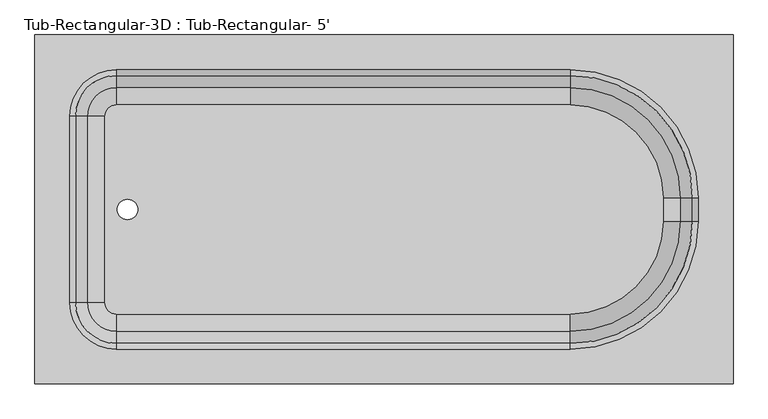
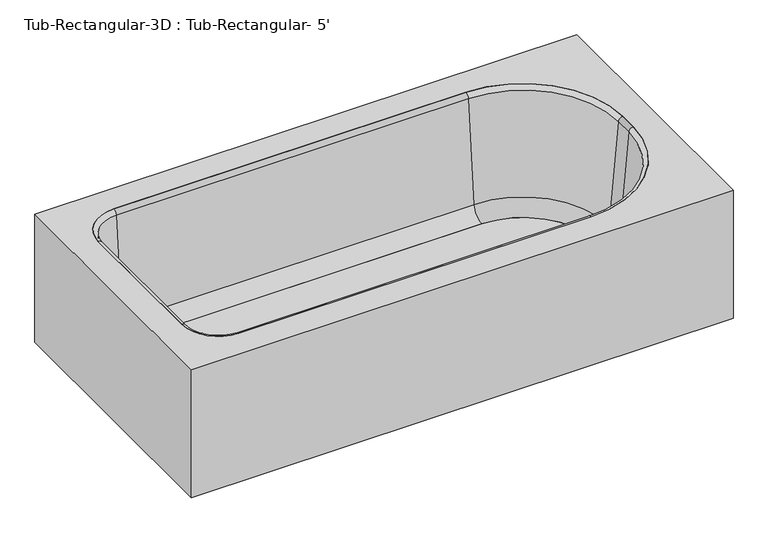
"""IFC4 building model written with IfcOpenShell, lengths in millimetres: flow terminal geometry, Tub-Rectangular-3D : Tub-Rectangular- 5'."""

from ifc_helpers import new_model, si_unit, point, frame, frame_2d, origin, place, context, project, spatial, polyline, circle_curve, ellipse_curve, trimmed, segment, composite_curve, outline, extrude, source, transform, mapped, element, save
from ifc_brep_helpers import plane_surface, cylinder_surface, revolved_surface, advanced_brep


def tub_rectangular_3d_tub_rectangular_5_8ae3ddee(model_context):
    return source(origin(), model_context, "Body", "SolidModel", [
        advanced_brep(
        [(413.3970313, -762.0, 381.0), (413.3970313, 0.0, 381.0), (-1110.6029687, 0.0, 381.0), (-1110.6029687, -762.0, 381.0), (-932.8029687, -685.8, 381.0), (-1034.4029687, -584.2, 381.0), (-1034.4029687, -177.8, 381.0), (-932.8029687, -76.2, 381.0), (57.7970313, -76.2, 381.0), (337.1970313, -355.6, 381.0), (337.1970313, -406.4, 381.0), (57.7970313, -685.8, 381.0), (394.3470313, -742.95, 361.95), (-1091.5529687, -742.95, 361.95), (-1091.5529687, -19.05, 361.95), (394.3470313, -19.05, 361.95), (-932.8029687, -685.8, 361.95), (57.7970313, -685.8, 361.95), (337.1970313, -406.4, 361.95), (337.1970313, -355.6, 361.95), (57.7970313, -76.2, 361.95), (-932.8029687, -76.2, 361.95), (-1034.4029687, -177.8, 361.95), (-1034.4029687, -584.2, 361.95), (-1110.6029687, -762.0, 0.0), (413.3970313, -762.0, 0.0), (-1110.6029687, 0.0, 0.0), (413.3970313, 0.0, 0.0), (394.3470313, -742.95, 0.0), (394.3470313, -19.05, 0.0), (-1091.5529687, -19.05, 0.0), (-1091.5529687, -742.95, 0.0)],
        [
            (0, 1),
            (1, 2),
            (2, 3),
            (3, 0),
            (4, 5, circle_curve(frame((-932.8029687, -584.2, 381.0), z_axis=(0.0, 0.0, -1.0), x_axis=(0.0, -1.0, 0.0)), 101.6)),
            (5, 6),
            (6, 7, circle_curve(frame((-932.8029687, -177.8, 381.0), z_axis=(0.0, 0.0, -1.0), x_axis=(0.0, -1.0, 0.0)), 101.6)),
            (7, 8),
            (8, 9, circle_curve(frame((57.7970313, -355.6, 381.0), z_axis=(0.0, 0.0, -1.0), x_axis=(0.0, -1.0, 0.0)), 279.4)),
            (9, 10),
            (10, 11, circle_curve(frame((57.7970313, -406.4, 381.0), z_axis=(0.0, 0.0, -1.0), x_axis=(0.0, -1.0, 0.0)), 279.4)),
            (11, 4),
            (12, 13),
            (13, 14),
            (14, 15),
            (15, 12),
            (16, 17),
            (17, 18, circle_curve(frame((57.7970313, -406.4, 361.95), z_axis=(0.0, 0.0, 1.0), x_axis=(0.0, -1.0, 0.0)), 279.4)),
            (18, 19),
            (19, 20, circle_curve(frame((57.7970313, -355.6, 361.95), z_axis=(0.0, 0.0, 1.0), x_axis=(0.0, -1.0, 0.0)), 279.4)),
            (20, 21),
            (21, 22, circle_curve(frame((-932.8029687, -177.8, 361.95), z_axis=(0.0, 0.0, 1.0), x_axis=(0.0, -1.0, 0.0)), 101.6)),
            (22, 23),
            (23, 16, circle_curve(frame((-932.8029687, -584.2, 361.95), z_axis=(0.0, 0.0, 1.0), x_axis=(0.0, -1.0, 0.0)), 101.6)),
            (3, 24),
            (24, 25),
            (25, 0),
            (2, 26),
            (26, 24),
            (1, 27),
            (27, 26),
            (25, 27),
            (11, 17),
            (16, 4),
            (10, 18),
            (9, 19),
            (8, 20),
            (7, 21),
            (6, 22),
            (5, 23),
            (28, 29),
            (29, 30),
            (30, 31),
            (31, 28),
            (28, 12),
            (15, 29),
            (14, 30),
            (13, 31),
        ],
        [
            plane_surface(frame((-1110.6029687, -762.0, 381.0), z_axis=(0.0, 0.0, 1.0), x_axis=(-1.0, 0.0, 0.0))),
            plane_surface(frame((-1110.6029687, -762.0, 361.95), z_axis=(0.0, 0.0, -1.0), x_axis=(1.0, 0.0, 0.0))),
            plane_surface(frame((413.3970313, -762.0, 381.0), z_axis=(0.0, -1.0, 0.0), x_axis=(0.0, 0.0, -1.0))),
            plane_surface(frame((-1110.6029687, -762.0, 381.0), z_axis=(-1.0, 0.0, 0.0), x_axis=(0.0, 0.0, -1.0))),
            plane_surface(frame((-1110.6029687, 0.0, 381.0), z_axis=(0.0, 1.0, 0.0), x_axis=(0.0, 0.0, -1.0))),
            plane_surface(frame((413.3970313, 0.0, 381.0), z_axis=(1.0, 0.0, 0.0), x_axis=(0.0, 0.0, -1.0))),
            plane_surface(frame((-932.8029687, -685.8, 381.0), z_axis=(0.0, 1.0, 0.0), x_axis=(0.0, 0.0, -1.0))),
            revolved_surface(polyline([(57.7970313, -685.8, 361.95), (57.7970313, -685.8, 381.0)]), (57.7970313, -406.4, 381.0), (0.0, 0.0, -1.0)),
            plane_surface(frame((337.1970313, -406.4, 381.0), z_axis=(-1.0, 0.0, 0.0), x_axis=(0.0, 0.0, -1.0))),
            revolved_surface(polyline([(57.7970313, -635.0, 361.95), (57.7970313, -635.0, 381.0)]), (57.7970313, -355.6, 381.0), (0.0, 0.0, -1.0)),
            plane_surface(frame((57.7970313, -76.2, 381.0), z_axis=(0.0, -1.0, 0.0), x_axis=(0.0, 0.0, -1.0))),
            revolved_surface(polyline([(-932.8029687, -279.4, 361.95), (-932.8029687, -279.4, 381.0)]), (-932.8029687, -177.8, 381.0), (0.0, 0.0, -1.0)),
            plane_surface(frame((-1034.4029687, -177.8, 381.0), z_axis=(1.0, 0.0, 0.0), x_axis=(0.0, 0.0, -1.0))),
            revolved_surface(polyline([(-932.8029687, -685.8000000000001, 361.95), (-932.8029687, -685.8000000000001, 381.0)]), (-932.8029687, -584.2, 381.0), (0.0, 0.0, -1.0)),
            plane_surface(frame((-1110.6029687, -762.0, 0.0), z_axis=(0.0, 0.0, -1.0), x_axis=(1.0, 0.0, 0.0))),
            plane_surface(frame((394.3470313, -742.95, 361.95), z_axis=(-1.0, 0.0, 0.0), x_axis=(0.0, 0.0, -1.0))),
            plane_surface(frame((394.3470313, -19.05, 361.95), z_axis=(0.0, -1.0, 0.0), x_axis=(0.0, 0.0, -1.0))),
            plane_surface(frame((-1091.5529687, -19.05, 361.95), z_axis=(1.0, 0.0, 0.0), x_axis=(0.0, 0.0, -1.0))),
            plane_surface(frame((-1091.5529687, -742.95, 361.95), z_axis=(0.0, 1.0, 0.0), x_axis=(0.0, 0.0, -1.0))),
        ],
        [
            (0, [[1, 2, 3, 4], [5, 6, 7, 8, 9, 10, 11, 12]]),
            (1, [[13, 14, 15, 16], [17, 18, 19, 20, 21, 22, 23, 24]]),
            (2, [[25, 26, 27, -4]]),
            (3, [[28, 29, -25, -3]]),
            (4, [[30, 31, -28, -2]]),
            (5, [[32, -30, -1, -27]]),
            (6, [[33, -17, 34, -12]]),
            (7, [[35, -18, -33, -11]]),
            (8, [[36, -19, -35, -10]]),
            (9, [[37, -20, -36, -9]]),
            (10, [[38, -21, -37, -8]]),
            (11, [[39, -22, -38, -7]]),
            (12, [[40, -23, -39, -6]]),
            (13, [[-34, -24, -40, -5]]),
            (14, [[-26, -29, -31, -32], [41, 42, 43, 44]]),
            (15, [[45, -16, 46, -41]]),
            (16, [[-46, -15, 47, -42]]),
            (17, [[-47, -14, 48, -43]]),
            (18, [[-48, -13, -45, -44]]),
        ],
    ),
        extrude(outline(composite_curve([segment(polyline([(57.7970313, -609.1964741), (-932.8029687, -609.1964741)]), True, "CONTINUOUS"), segment(trimmed(circle_curve(frame_2d((-932.8029687, -584.2)), 24.9964741), [point((-932.8029687, -609.1964741))], [point((-957.7994428, -584.2))], False, "CARTESIAN"), True, "CONTINUOUS"), segment(polyline([(-957.7994428, -584.2), (-957.7994428, -177.8)]), True, "CONTINUOUS"), segment(trimmed(circle_curve(frame_2d((-932.8029687, -177.8)), 24.9964741), [point((-957.7994428, -177.8))], [point((-932.8029687, -152.8035259))], False, "CARTESIAN"), True, "CONTINUOUS"), segment(polyline([(-932.8029687, -152.8035259), (57.7970313, -152.8035259)]), True, "CONTINUOUS"), segment(trimmed(circle_curve(frame_2d((57.7970313, -355.6)), 202.7964741), [point((57.7970313, -152.8035259))], [point((260.5935054, -355.6))], False, "CARTESIAN"), True, "CONTINUOUS"), segment(polyline([(260.5935054, -355.6), (260.5935054, -406.4)]), True, "CONTINUOUS"), segment(trimmed(circle_curve(frame_2d((57.7970313, -406.4)), 202.7964741), [point((260.5935054, -406.4))], [point((57.7970313, -609.1964741))], False, "CARTESIAN"), True, "CONTINUOUS")], self_intersect=False), holes=[composite_curve([segment(trimmed(circle_curve(frame_2d((-908.510206, -381.0)), 22.225), [point((-908.510206, -403.225))], [point((-908.510206, -358.775))], True, "CARTESIAN"), True, "CONTINUOUS"), segment(trimmed(circle_curve(frame_2d((-908.510206, -381.0)), 22.225), [point((-908.510206, -358.775))], [point((-908.510206, -403.225))], True, "CARTESIAN"), True, "CONTINUOUS")], self_intersect=False)]), frame((0.0, 0.0, 16.863573), z_axis=(0.0, 0.0, 1.0), x_axis=(1.0, 0.0, 0.0)), (0.0, 0.0, 1.0), 19.05),
        advanced_brep(
        [(-995.7544608, -584.2, 70.6929392), (-1021.9249722, -584.2, 369.8232535), (-932.8029687, -673.3220035, 369.8232535), (-932.8029687, -647.1514921, 70.6929392), (-957.7994428, -584.2, 35.913573), (-932.8029687, -609.1964741, 35.913573), (-957.7994428, -584.2, 16.863573), (-932.8029687, -609.1964741, 16.863573), (-1034.4029687, -584.2, 16.863573), (-932.8029687, -685.8, 16.863573), (-1034.4029687, -584.2, 381.0), (-932.8029687, -685.8, 381.0), (-995.7544608, -177.8, 70.6929392), (-1021.9249722, -177.8, 369.8232535), (-957.7994428, -177.8, 35.913573), (-957.7994428, -177.8, 16.863573), (-1034.4029687, -177.8, 16.863573), (-1034.4029687, -177.8, 381.0), (-932.8029687, -114.8485079, 70.6929392), (-932.8029687, -88.6779965, 369.8232535), (-932.8029687, -152.8035259, 35.913573), (-932.8029687, -152.8035259, 16.863573), (-932.8029687, -76.2, 16.863573), (-932.8029687, -76.2, 381.0), (57.7970313, -114.8485079, 70.6929392), (57.7970313, -88.6779965, 369.8232535), (57.7970313, -152.8035259, 35.913573), (57.7970313, -152.8035259, 16.863573), (57.7970313, -76.2, 16.863573), (57.7970313, -76.2, 381.0), (298.5485234, -355.6, 70.6929392), (324.7190348, -355.6, 369.8232535), (260.5935054, -355.6, 35.913573), (260.5935054, -355.6, 16.863573), (337.1970313, -355.6, 16.863573), (337.1970313, -355.6, 381.0), (298.5485234, -406.4, 70.6929392), (324.7190348, -406.4, 369.8232535), (260.5935054, -406.4, 35.913573), (260.5935054, -406.4, 16.863573), (337.1970313, -406.4, 16.863573), (337.1970313, -406.4, 381.0), (57.7970313, -647.1514921, 70.6929392), (57.7970313, -673.3220035, 369.8232535), (57.7970313, -609.1964741, 35.913573), (57.7970313, -609.1964741, 16.863573), (57.7970313, -685.8, 16.863573), (57.7970313, -685.8, 381.0)],
        [
            (0, 1),
            (1, 2, circle_curve(frame((-932.8029687, -584.2, 369.8232535), z_axis=(0.0, 0.0, 1.0), x_axis=(0.0, -1.0, 0.0)), 89.1220035)),
            (2, 3),
            (3, 0, circle_curve(frame((-932.8029687, -584.2, 70.6929392), z_axis=(0.0, 0.0, -1.0), x_axis=(0.0, -1.0, 0.0)), 62.9514921)),
            (4, 0, circle_curve(frame((-957.7994428, -584.2, 74.013573), z_axis=(0.0, 1.0, 0.0), x_axis=(1.0, 0.0, 0.0)), 38.1)),
            (3, 5, circle_curve(frame((-932.8029687, -609.1964741, 74.013573), z_axis=(1.0, 0.0, 0.0), x_axis=(0.0, 1.0, 0.0)), 38.1)),
            (5, 4, circle_curve(frame((-932.8029687, -584.2, 35.913573), z_axis=(0.0, 0.0, -1.0), x_axis=(0.0, -1.0, 0.0)), 24.9964741)),
            (6, 4),
            (5, 7),
            (7, 6, circle_curve(frame((-932.8029687, -584.2, 16.863573), z_axis=(0.0, 0.0, -1.0), x_axis=(0.0, -1.0, 0.0)), 24.9964741)),
            (8, 6),
            (7, 9),
            (9, 8, circle_curve(frame((-932.8029687, -584.2, 16.863573), z_axis=(0.0, 0.0, -1.0), x_axis=(0.0, -1.0, 0.0)), 101.6)),
            (10, 8),
            (9, 11),
            (11, 10, circle_curve(frame((-932.8029687, -584.2, 381.0), z_axis=(0.0, 0.0, -1.0), x_axis=(0.0, -1.0, 0.0)), 101.6)),
            (1, 10, circle_curve(frame((-1034.4029687, -584.2, 368.4462547), z_axis=(0.0, -1.0, 0.0), x_axis=(1.0, 0.0, 0.0)), 12.5537453)),
            (11, 2, circle_curve(frame((-932.8029687, -685.8, 368.4462547), z_axis=(-1.0, 0.0, 0.0), x_axis=(0.0, 1.0, 0.0)), 12.5537453)),
            (0, 12),
            (12, 13),
            (13, 1),
            (4, 14),
            (14, 12, circle_curve(frame((-957.7994428, -177.8, 74.013573), z_axis=(0.0, 1.0, 0.0), x_axis=(1.0, 0.0, 0.0)), 38.1)),
            (6, 15),
            (15, 14),
            (8, 16),
            (16, 15),
            (10, 17),
            (17, 16),
            (13, 17, circle_curve(frame((-1034.4029687, -177.8, 368.4462547), z_axis=(0.0, -1.0, 0.0), x_axis=(1.0, 0.0, 0.0)), 12.5537453)),
            (18, 19),
            (19, 13, circle_curve(frame((-932.8029687, -177.8, 369.8232535), z_axis=(0.0, 0.0, 1.0), x_axis=(-1.0, 0.0, 0.0)), 89.1220035)),
            (12, 18, circle_curve(frame((-932.8029687, -177.8, 70.6929392), z_axis=(0.0, 0.0, -1.0), x_axis=(-1.0, 0.0, 0.0)), 62.9514921)),
            (20, 18, circle_curve(frame((-932.8029687, -152.8035259, 74.013573), z_axis=(1.0, 0.0, 0.0), x_axis=(0.0, -1.0, 0.0)), 38.1)),
            (14, 20, circle_curve(frame((-932.8029687, -177.8, 35.913573), z_axis=(0.0, 0.0, -1.0), x_axis=(-1.0, 0.0, 0.0)), 24.9964741)),
            (21, 20),
            (15, 21, circle_curve(frame((-932.8029687, -177.8, 16.863573), z_axis=(0.0, 0.0, -1.0), x_axis=(-1.0, 0.0, 0.0)), 24.9964741)),
            (22, 21),
            (16, 22, circle_curve(frame((-932.8029687, -177.8, 16.863573), z_axis=(0.0, 0.0, -1.0), x_axis=(-1.0, 0.0, 0.0)), 101.6)),
            (23, 22),
            (17, 23, circle_curve(frame((-932.8029687, -177.8, 381.0), z_axis=(0.0, 0.0, -1.0), x_axis=(-1.0, 0.0, 0.0)), 101.6)),
            (19, 23, circle_curve(frame((-932.8029687, -76.2, 368.4462547), z_axis=(-1.0, 0.0, 0.0), x_axis=(0.0, -1.0, 0.0)), 12.5537453)),
            (18, 24),
            (24, 25),
            (25, 19),
            (20, 26),
            (26, 24, circle_curve(frame((57.7970313, -152.8035259, 74.013573), z_axis=(1.0, 0.0, 0.0), x_axis=(0.0, -1.0, 0.0)), 38.1)),
            (21, 27),
            (27, 26),
            (22, 28),
            (28, 27),
            (23, 29),
            (29, 28),
            (25, 29, circle_curve(frame((57.7970313, -76.2, 368.4462547), z_axis=(-1.0, 0.0, 0.0), x_axis=(0.0, -1.0, 0.0)), 12.5537453)),
            (30, 31),
            (31, 25, circle_curve(frame((57.7970313, -355.6, 369.8232535), z_axis=(0.0, 0.0, 1.0), x_axis=(0.0, 1.0, 0.0)), 266.9220035)),
            (24, 30, circle_curve(frame((57.7970313, -355.6, 70.6929392), z_axis=(0.0, 0.0, -1.0), x_axis=(0.0, 1.0, 0.0)), 240.7514921)),
            (32, 30, circle_curve(frame((260.5935054, -355.6, 74.013573), z_axis=(0.0, -1.0, 0.0), x_axis=(-1.0, 0.0, 0.0)), 38.1)),
            (26, 32, circle_curve(frame((57.7970313, -355.6, 35.913573), z_axis=(0.0, 0.0, -1.0), x_axis=(0.0, 1.0, 0.0)), 202.7964741)),
            (33, 32),
            (27, 33, circle_curve(frame((57.7970313, -355.6, 16.863573), z_axis=(0.0, 0.0, -1.0), x_axis=(0.0, 1.0, 0.0)), 202.7964741)),
            (34, 33),
            (28, 34, circle_curve(frame((57.7970313, -355.6, 16.863573), z_axis=(0.0, 0.0, -1.0), x_axis=(0.0, 1.0, 0.0)), 279.4)),
            (35, 34),
            (29, 35, circle_curve(frame((57.7970313, -355.6, 381.0), z_axis=(0.0, 0.0, -1.0), x_axis=(0.0, 1.0, 0.0)), 279.4)),
            (31, 35, circle_curve(frame((337.1970313, -355.6, 368.4462547), z_axis=(0.0, 1.0, 0.0), x_axis=(-1.0, 0.0, 0.0)), 12.5537453)),
            (30, 36),
            (36, 37),
            (37, 31),
            (32, 38),
            (38, 36, circle_curve(frame((260.5935054, -406.4, 74.013573), z_axis=(0.0, -1.0, 0.0), x_axis=(-1.0, 0.0, 0.0)), 38.1)),
            (33, 39),
            (39, 38),
            (34, 40),
            (40, 39),
            (35, 41),
            (41, 40),
            (37, 41, circle_curve(frame((337.1970313, -406.4, 368.4462547), z_axis=(0.0, 1.0, 0.0), x_axis=(-1.0, 0.0, 0.0)), 12.5537453)),
            (42, 43),
            (43, 37, circle_curve(frame((57.7970313, -406.4, 369.8232535), z_axis=(0.0, 0.0, 1.0), x_axis=(1.0, 0.0, 0.0)), 266.9220035)),
            (36, 42, circle_curve(frame((57.7970313, -406.4, 70.6929392), z_axis=(0.0, 0.0, -1.0), x_axis=(1.0, 0.0, 0.0)), 240.7514921)),
            (44, 42, circle_curve(frame((57.7970313, -609.1964741, 74.013573), z_axis=(-1.0, 0.0, 0.0), x_axis=(0.0, 1.0, 0.0)), 38.1)),
            (38, 44, circle_curve(frame((57.7970313, -406.4, 35.913573), z_axis=(0.0, 0.0, -1.0), x_axis=(1.0, 0.0, 0.0)), 202.7964741)),
            (45, 44),
            (39, 45, circle_curve(frame((57.7970313, -406.4, 16.863573), z_axis=(0.0, 0.0, -1.0), x_axis=(1.0, 0.0, 0.0)), 202.7964741)),
            (46, 45),
            (40, 46, circle_curve(frame((57.7970313, -406.4, 16.863573), z_axis=(0.0, 0.0, -1.0), x_axis=(1.0, 0.0, 0.0)), 279.4)),
            (47, 46),
            (41, 47, circle_curve(frame((57.7970313, -406.4, 381.0), z_axis=(0.0, 0.0, -1.0), x_axis=(1.0, 0.0, 0.0)), 279.4)),
            (43, 47, circle_curve(frame((57.7970313, -685.8, 368.4462547), z_axis=(1.0, 0.0, 0.0), x_axis=(0.0, 1.0, 0.0)), 12.5537453)),
            (42, 3),
            (2, 43),
            (44, 5),
            (45, 7),
            (46, 9),
            (47, 11),
        ],
        [
            revolved_surface(polyline([(-932.8029687, -673.3220035, 369.8232535), (-932.8029687, -647.1514921, 70.6929392)]), (-932.8029687, -584.2, 381.0), (0.0, 0.0, 1.0)),
            revolved_surface(trimmed(ellipse_curve(frame((-932.8029687, -609.1964741, 74.013573), z_axis=(1.0, 0.0, 0.0), x_axis=(0.0, 1.0, 0.0)), 38.1, 38.1), [point((-932.8029687, -647.1514921, 70.6929392))], [point((-932.8029687, -609.1964741, 35.913573))], True, "CARTESIAN"), (-932.8029687, -584.2, 381.0), (0.0, 0.0, 1.0)),
            revolved_surface(polyline([(-932.8029687, -609.1964741, 35.913572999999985), (-932.8029687, -609.1964741, 16.863572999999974)]), (-932.8029687, -584.2, 381.0), (0.0, 0.0, 1.0)),
            plane_surface(frame((-932.8029687, -584.2, 16.863573), z_axis=(0.0, 0.0, -1.0), x_axis=(0.0, -1.0, 0.0))),
            cylinder_surface(frame((-932.8029687, -584.2, 381.0), z_axis=(0.0, 0.0, 1.0), x_axis=(0.0, -1.0, 0.0)), 101.6),
            revolved_surface(trimmed(ellipse_curve(frame((-932.8029687, -685.8, 368.4462547), z_axis=(-1.0, 0.0, 0.0), x_axis=(0.0, 1.0, 0.0)), 12.5537453, 12.5537453), [point((-932.8029687, -685.8, 381.0))], [point((-932.8029687, -673.3220035, 369.8232535))], True, "CARTESIAN"), (-932.8029687, -584.2, 381.0), (0.0, 0.0, 1.0)),
            plane_surface(frame((-1021.9249722, -584.2, 369.8232535), z_axis=(0.9961946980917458, 0.0, 0.08715574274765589), x_axis=(0.0, 1.0, 0.0))),
            revolved_surface(polyline([(-919.6994427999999, -177.8, 74.013573), (-919.6994427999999, -584.2, 74.013573)]), (-957.7994428, -584.2, 74.013573), (0.0, 1.0, 0.0)),
            plane_surface(frame((-957.7994428, -584.2, 35.913573), z_axis=(1.0, 0.0, 0.0), x_axis=(0.0, 1.0, 0.0))),
            plane_surface(frame((-957.7994428, -584.2, 16.863573), z_axis=(0.0, 0.0, -1.0), x_axis=(0.0, 1.0, 0.0))),
            plane_surface(frame((-1034.4029687, -584.2, 16.863573), z_axis=(-1.0, 0.0, 0.0), x_axis=(0.0, 1.0, 0.0))),
            cylinder_surface(frame((-1034.4029687, -584.2, 368.4462547), z_axis=(0.0, -1.0, 0.0), x_axis=(1.0, 0.0, 0.0)), 12.5537453),
            revolved_surface(polyline([(-1021.9249722, -177.8, 369.8232535), (-995.7544608, -177.8, 70.6929392)]), (-932.8029687, -177.8, 381.0), (0.0, 0.0, 1.0)),
            revolved_surface(trimmed(ellipse_curve(frame((-957.7994428, -177.8, 74.013573), z_axis=(0.0, -1.0, 0.0), x_axis=(1.0, 0.0, 0.0)), 38.1, 38.1), [point((-995.7544608, -177.8, 70.6929392))], [point((-957.7994428, -177.8, 35.913573))], True, "CARTESIAN"), (-932.8029687, -177.8, 381.0), (0.0, 0.0, 1.0)),
            revolved_surface(polyline([(-957.7994428, -177.8, 35.913572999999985), (-957.7994428, -177.8, 16.863572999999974)]), (-932.8029687, -177.8, 381.0), (0.0, 0.0, 1.0)),
            plane_surface(frame((-932.8029687, -177.8, 16.863573), z_axis=(0.0, 0.0, -1.0), x_axis=(-1.0, 0.0, 0.0))),
            cylinder_surface(frame((-932.8029687, -177.8, 381.0), z_axis=(0.0, 0.0, 1.0), x_axis=(-1.0, 0.0, 0.0)), 101.6),
            revolved_surface(trimmed(ellipse_curve(frame((-1034.4029687, -177.8, 368.4462547), z_axis=(0.0, 1.0, 0.0), x_axis=(1.0, 0.0, 0.0)), 12.5537453, 12.5537453), [point((-1034.4029687, -177.8, 381.0))], [point((-1021.9249722, -177.8, 369.8232535))], True, "CARTESIAN"), (-932.8029687, -177.8, 381.0), (0.0, 0.0, 1.0)),
            plane_surface(frame((-932.8029687, -88.6779965, 369.8232535), z_axis=(0.0, -0.9961946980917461, 0.08715574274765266), x_axis=(1.0, 0.0, 0.0))),
            revolved_surface(polyline([(57.79703129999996, -190.9035259, 74.013573), (-932.8029687, -190.9035259, 74.013573)]), (-932.8029687, -152.8035259, 74.013573), (1.0, 0.0, 0.0)),
            plane_surface(frame((-932.8029687, -152.8035259, 35.913573), z_axis=(0.0, -1.0, 0.0), x_axis=(1.0, 0.0, 0.0))),
            plane_surface(frame((-932.8029687, -152.8035259, 16.863573), z_axis=(0.0, 0.0, -1.0), x_axis=(1.0, 0.0, 0.0))),
            plane_surface(frame((-932.8029687, -76.2, 16.863573), z_axis=(0.0, 1.0, 0.0), x_axis=(1.0, 0.0, 0.0))),
            cylinder_surface(frame((-932.8029687, -76.2, 368.4462547), z_axis=(-1.0, 0.0, 0.0), x_axis=(0.0, -1.0, 0.0)), 12.5537453),
            revolved_surface(polyline([(57.7970313, -88.6779965, 369.8232535), (57.7970313, -114.8485079, 70.6929392)]), (57.7970313, -355.6, 381.0), (0.0, 0.0, 1.0)),
            revolved_surface(trimmed(ellipse_curve(frame((57.7970313, -152.8035259, 74.013573), z_axis=(-1.0, 0.0, 0.0), x_axis=(0.0, -1.0, 0.0)), 38.1, 38.1), [point((57.7970313, -114.8485079, 70.6929392))], [point((57.7970313, -152.8035259, 35.913573))], True, "CARTESIAN"), (57.7970313, -355.6, 381.0), (0.0, 0.0, 1.0)),
            revolved_surface(polyline([(57.7970313, -152.8035259, 35.913572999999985), (57.7970313, -152.8035259, 16.863572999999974)]), (57.7970313, -355.6, 381.0), (0.0, 0.0, 1.0)),
            plane_surface(frame((57.7970313, -355.6, 16.863573), z_axis=(0.0, 0.0, -1.0), x_axis=(0.0, 1.0, 0.0))),
            cylinder_surface(frame((57.7970313, -355.6, 381.0), z_axis=(0.0, 0.0, 1.0), x_axis=(0.0, 1.0, 0.0)), 279.4),
            revolved_surface(trimmed(ellipse_curve(frame((57.7970313, -76.2, 368.4462547), z_axis=(1.0, 0.0, 0.0), x_axis=(0.0, -1.0, 0.0)), 12.5537453, 12.5537453), [point((57.7970313, -76.2, 381.0))], [point((57.7970313, -88.6779965, 369.8232535))], True, "CARTESIAN"), (57.7970313, -355.6, 381.0), (0.0, 0.0, 1.0)),
            plane_surface(frame((324.7190348, -355.6, 369.8232535), z_axis=(-0.9961946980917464, 0.0, 0.08715574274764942), x_axis=(0.0, -1.0, 0.0))),
            revolved_surface(polyline([(222.49350540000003, -406.4, 74.013573), (222.49350540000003, -355.6, 74.013573)]), (260.5935054, -355.6, 74.013573), (0.0, -1.0, 0.0)),
            plane_surface(frame((260.5935054, -355.6, 35.913573), z_axis=(-1.0, 0.0, 0.0), x_axis=(0.0, -1.0, 0.0))),
            plane_surface(frame((260.5935054, -355.6, 16.863573), z_axis=(0.0, 0.0, -1.0), x_axis=(0.0, -1.0, 0.0))),
            plane_surface(frame((337.1970313, -355.6, 16.863573), z_axis=(1.0, 0.0, 0.0), x_axis=(0.0, -1.0, 0.0))),
            cylinder_surface(frame((337.1970313, -355.6, 368.4462547), z_axis=(0.0, 1.0, 0.0), x_axis=(-1.0, 0.0, 0.0)), 12.5537453),
            revolved_surface(polyline([(324.7190348, -406.4, 369.8232535), (298.5485234, -406.4, 70.6929392)]), (57.7970313, -406.4, 381.0), (0.0, 0.0, 1.0)),
            revolved_surface(trimmed(ellipse_curve(frame((260.5935054, -406.4, 74.013573), z_axis=(0.0, 1.0, 0.0), x_axis=(-1.0, 0.0, 0.0)), 38.1, 38.1), [point((298.5485234, -406.4, 70.6929392))], [point((260.5935054, -406.4, 35.913573))], True, "CARTESIAN"), (57.7970313, -406.4, 381.0), (0.0, 0.0, 1.0)),
            revolved_surface(polyline([(260.5935054, -406.4, 35.913572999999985), (260.5935054, -406.4, 16.863572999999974)]), (57.7970313, -406.4, 381.0), (0.0, 0.0, 1.0)),
            plane_surface(frame((57.7970313, -406.4, 16.863573), z_axis=(0.0, 0.0, -1.0), x_axis=(1.0, 0.0, 0.0))),
            cylinder_surface(frame((57.7970313, -406.4, 381.0), z_axis=(0.0, 0.0, 1.0), x_axis=(1.0, 0.0, 0.0)), 279.4),
            revolved_surface(trimmed(ellipse_curve(frame((337.1970313, -406.4, 368.4462547), z_axis=(0.0, -1.0, 0.0), x_axis=(-1.0, 0.0, 0.0)), 12.5537453, 12.5537453), [point((337.1970313, -406.4, 381.0))], [point((324.7190348, -406.4, 369.8232535))], True, "CARTESIAN"), (57.7970313, -406.4, 381.0), (0.0, 0.0, 1.0)),
            plane_surface(frame((57.7970313, -673.3220035, 369.8232535), z_axis=(0.0, 0.9961946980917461, 0.08715574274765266), x_axis=(-1.0, 0.0, 0.0))),
            revolved_surface(polyline([(-932.8029687, -571.0964741, 74.013573), (57.7970313, -571.0964741, 74.013573)]), (57.7970313, -609.1964741, 74.013573), (-1.0, 0.0, 0.0)),
            plane_surface(frame((57.7970313, -609.1964741, 35.913573), z_axis=(0.0, 1.0, 0.0), x_axis=(-1.0, 0.0, 0.0))),
            plane_surface(frame((57.7970313, -609.1964741, 16.863573), z_axis=(0.0, 0.0, -1.0), x_axis=(-1.0, 0.0, 0.0))),
            plane_surface(frame((57.7970313, -685.8, 16.863573), z_axis=(0.0, -1.0, 0.0), x_axis=(-1.0, 0.0, 0.0))),
            cylinder_surface(frame((57.7970313, -685.8, 368.4462547), z_axis=(1.0, 0.0, 0.0), x_axis=(0.0, 1.0, 0.0)), 12.5537453),
        ],
        [
            (0, [[1, 2, 3, 4]]),
            (1, [[5, -4, 6, 7]]),
            (2, [[8, -7, 9, 10]]),
            (3, [[11, -10, 12, 13]]),
            (4, [[14, -13, 15, 16]]),
            (5, [[17, -16, 18, -2]]),
            (6, [[19, 20, 21, -1]]),
            (7, [[22, 23, -19, -5]]),
            (8, [[24, 25, -22, -8]]),
            (9, [[26, 27, -24, -11]]),
            (10, [[28, 29, -26, -14]]),
            (11, [[-21, 30, -28, -17]]),
            (12, [[31, 32, -20, 33]]),
            (13, [[34, -33, -23, 35]]),
            (14, [[36, -35, -25, 37]]),
            (15, [[38, -37, -27, 39]]),
            (16, [[40, -39, -29, 41]]),
            (17, [[42, -41, -30, -32]]),
            (18, [[43, 44, 45, -31]]),
            (19, [[46, 47, -43, -34]]),
            (20, [[48, 49, -46, -36]]),
            (21, [[50, 51, -48, -38]]),
            (22, [[52, 53, -50, -40]]),
            (23, [[-45, 54, -52, -42]]),
            (24, [[55, 56, -44, 57]]),
            (25, [[58, -57, -47, 59]]),
            (26, [[60, -59, -49, 61]]),
            (27, [[62, -61, -51, 63]]),
            (28, [[64, -63, -53, 65]]),
            (29, [[66, -65, -54, -56]]),
            (30, [[67, 68, 69, -55]]),
            (31, [[70, 71, -67, -58]]),
            (32, [[72, 73, -70, -60]]),
            (33, [[74, 75, -72, -62]]),
            (34, [[76, 77, -74, -64]]),
            (35, [[-69, 78, -76, -66]]),
            (36, [[79, 80, -68, 81]]),
            (37, [[82, -81, -71, 83]]),
            (38, [[84, -83, -73, 85]]),
            (39, [[86, -85, -75, 87]]),
            (40, [[88, -87, -77, 89]]),
            (41, [[90, -89, -78, -80]]),
            (42, [[91, -3, 92, -79]]),
            (43, [[93, -6, -91, -82]]),
            (44, [[94, -9, -93, -84]]),
            (45, [[95, -12, -94, -86]]),
            (46, [[96, -15, -95, -88]]),
            (47, [[-92, -18, -96, -90]]),
        ],
    ),
    ])


if __name__ == "__main__":
    model = new_model("IFC4")
    model_context = context("Model", 3, world=origin())
    ifc_project = project(units=[si_unit("LENGTHUNIT", "METRE", prefix="MILLI")], contexts=[model_context])
    site = spatial("IfcSite", under=ifc_project)
    building = spatial("IfcBuilding", under=site)
    placement = place(None, origin())
    tub_rectangular_3d_tub_rectangular_5_shape = tub_rectangular_3d_tub_rectangular_5_8ae3ddee(model_context)
    element("IfcFlowTerminal", 1, ObjectType="Tub-Rectangular-3D : Tub-Rectangular- 5'", at=placement, inside=building, context=model_context, shape_type="MappedRepresentation", body=[
        mapped(tub_rectangular_3d_tub_rectangular_5_shape, transform((0.0, 0.0, 0.0), x_axis=(1.0, 0.0, 0.0), y_axis=(0.0, 1.0, 0.0), z_axis=(0.0, 0.0, 1.0))),
    ])
    save(model, "model.ifc")
